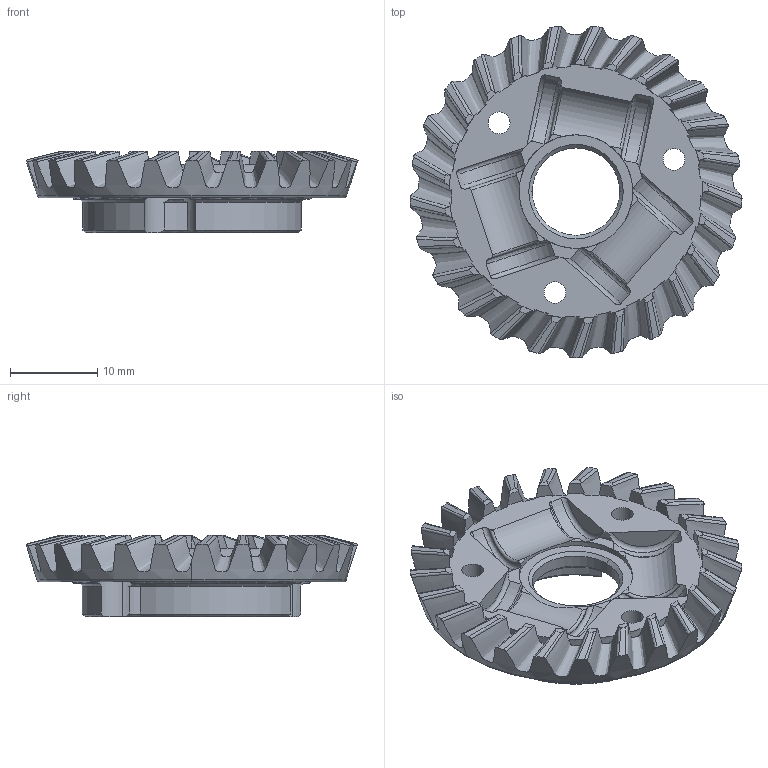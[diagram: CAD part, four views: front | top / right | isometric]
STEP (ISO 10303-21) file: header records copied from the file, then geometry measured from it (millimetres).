
FILE_DESCRIPTION (( 'STEP AP214' ), '1' );
FILE_NAME ('в 2 3.STEP', '2019-03-21T14:03:27', ( '' ), ( '' ), 'SwSTEP 2.0', 'SolidWorks 2018', '' );
FILE_SCHEMA (( 'AUTOMOTIVE_DESIGN' ));
Length unit declared in the file: millimetre
Products named in the file (1): в 2 3
Bounding box: 37.99 x 37.92 x 9.31 mm (x, y, z)
Volume: 3530.1 mm3; surface area: 3621.5 mm2
Topology: 1 solids, 1 shells, 301 faces, 874 edges, 578 vertices
Faces by surface type: cylinder 87, bspline 75, plane 60, cone 47, torus 32
Entity records: 20428 total; most frequent: CARTESIAN_POINT 13417, ORIENTED_EDGE 1748, DIRECTION 1122, EDGE_CURVE 874, VERTEX_POINT 578, AXIS2_PLACEMENT_3D 521, B_SPLINE_CURVE_WITH_KNOTS 500, EDGE_LOOP 312
